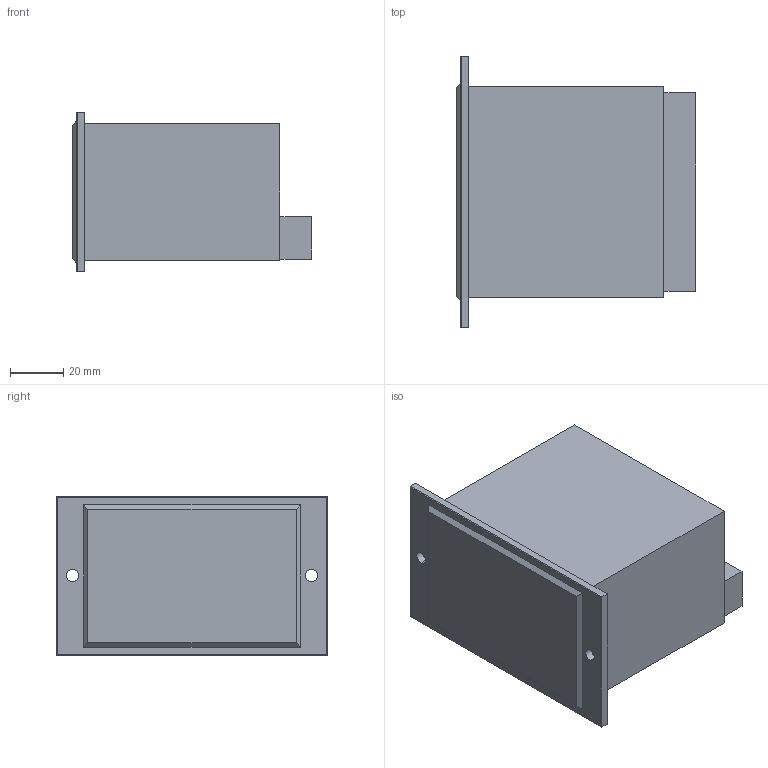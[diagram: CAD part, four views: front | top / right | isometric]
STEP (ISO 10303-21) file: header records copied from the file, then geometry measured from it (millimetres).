
FILE_DESCRIPTION (( 'STEP AP203' ), '1' );
FILE_NAME ('数显式力矩驱动器.STEP', '2020-01-07T02:09:44', ( 'User' ), ( 'www.dadighost.com' ), 'SwSTEP 2.0', 'SolidWorks 2014', '' );
FILE_SCHEMA (( 'CONFIG_CONTROL_DESIGN' ));
Length unit declared in the file: millimetre
Products named in the file (1): 数显式力矩驱动器
Bounding box: 90.1 x 102 x 60 mm (x, y, z)
Volume: 340140.9 mm3; surface area: 54092.8 mm2
Topology: 4 solids, 4 shells, 32 faces, 68 edges, 44 vertices
Faces by surface type: plane 24, cylinder 8
Entity records: 927 total; most frequent: CARTESIAN_POINT 157, DIRECTION 138, ORIENTED_EDGE 136, EDGE_CURVE 68, VECTOR 56, LINE 56, VERTEX_POINT 44, AXIS2_PLACEMENT_3D 41
